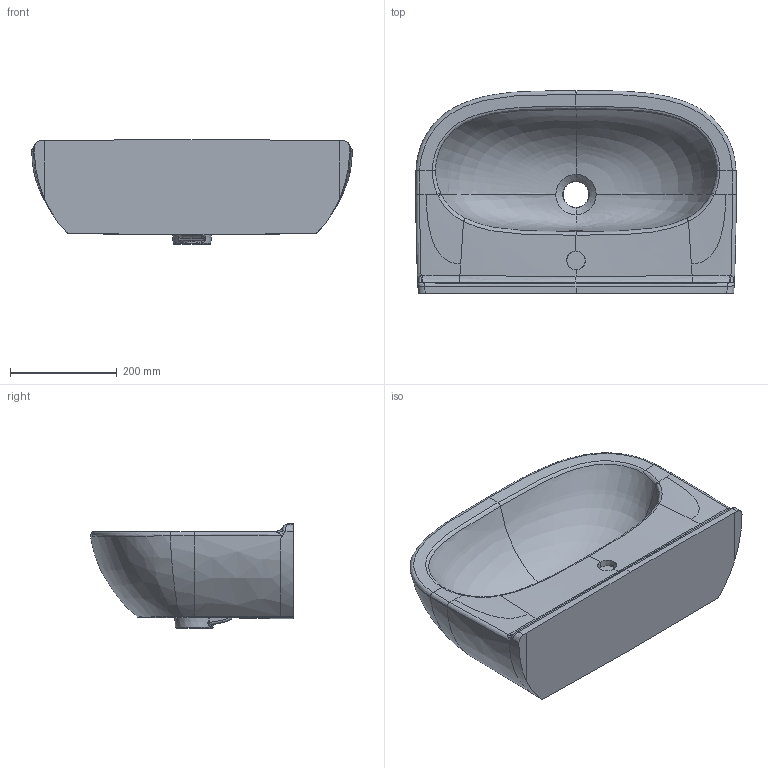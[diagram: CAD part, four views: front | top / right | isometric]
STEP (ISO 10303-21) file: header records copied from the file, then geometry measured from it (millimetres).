
FILE_DESCRIPTION(/* description */ (''),/* implementation_level */ '2;1');
FILE_NAME(/* name */ '516660_Onovo_WT.stp',/* time_stamp */ '2019-04-01T12:31:40+02:00',/* author */ (''),/* organization */ (''),/* preprocessor_version */ 'ST-DEVELOPER v16',/* originating_system */ 'SIEMENS PLM Software NX 10.0',/* authorisation */ '');
FILE_SCHEMA (('AUTOMOTIVE_DESIGN { 1 0 10303 214 3 1 1 1 }'));
Length unit declared in the file: millimetre
Products named in the file (1): Sier0B2485729yvk
Bounding box: 599.95 x 379.18 x 195.52 mm (x, y, z)
Volume: 19800592 mm3; surface area: 733505.5 mm2
Topology: 1 solids, 1 shells, 113 faces, 289 edges, 177 vertices
Faces by surface type: bspline 83, plane 10, cylinder 6, extrusion 6, torus 4, cone 4
Full cylindrical faces by diameter (mm): 25 x1, 48.261 x1
Entity records: 14221 total; most frequent: CARTESIAN_POINT 12218, ORIENTED_EDGE 572, EDGE_CURVE 286, B_SPLINE_CURVE_WITH_KNOTS 202, VERTEX_POINT 176, DIRECTION 170, EDGE_LOOP 116, ADVANCED_FACE 113
